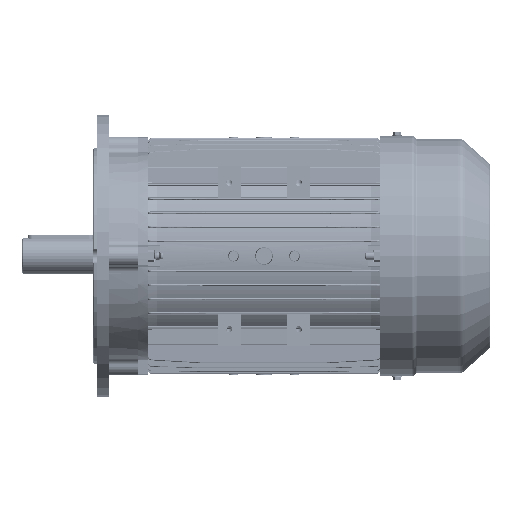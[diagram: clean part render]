
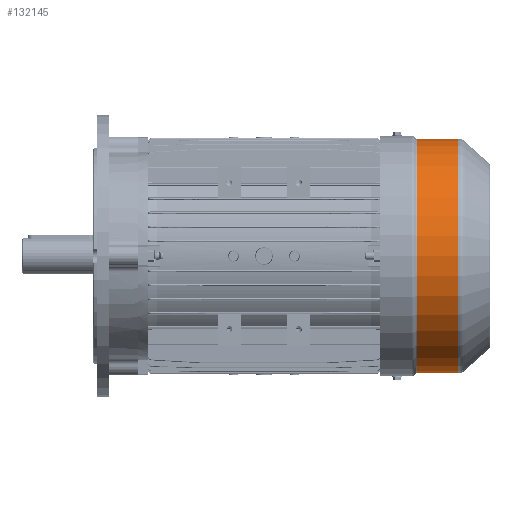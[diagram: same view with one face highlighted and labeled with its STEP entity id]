
A CAD part, front view. The second image highlights one B-rep face of the part: STEP entity #132145.
In plain terms, the highlighted cylindrical face has radius 125 mm (diameter 250 mm), a partial arc.
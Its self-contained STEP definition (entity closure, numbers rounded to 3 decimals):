
#3391 = VERTEX_POINT ( 'NONE', #76927 ) ;
#7706 = CIRCLE ( 'NONE', #74350, 125. ) ;
#13133 = CARTESIAN_POINT ( 'NONE',  ( -39.028, 0., 0. ) ) ;
#26895 = DIRECTION ( 'NONE',  ( 0., 0., 1. ) ) ;
#28086 = ORIENTED_EDGE ( 'NONE', *, *, #80348, .T. ) ;
#28287 = FACE_OUTER_BOUND ( 'NONE', #89871, .T. ) ;
#30544 = CARTESIAN_POINT ( 'NONE',  ( -39.028, 0., -125. ) ) ;
#39878 = DIRECTION ( 'NONE',  ( -1., 0., 0. ) ) ;
#42777 = LINE ( 'NONE', #118515, #90216 ) ;
#43224 = EDGE_CURVE ( 'NONE', #44314, #55408, #42777, .T. ) ;
#44314 = VERTEX_POINT ( 'NONE', #30544 ) ;
#44540 = CARTESIAN_POINT ( 'NONE',  ( -39.028, 0., 125. ) ) ;
#47358 = CARTESIAN_POINT ( 'NONE',  ( -83.139, 0., -125. ) ) ;
#52119 = CARTESIAN_POINT ( 'NONE',  ( -114., 0., 125. ) ) ;
#55408 = VERTEX_POINT ( 'NONE', #47358 ) ;
#66575 = AXIS2_PLACEMENT_3D ( 'NONE', #126537, #102149, #150474 ) ;
#68752 = DIRECTION ( 'NONE',  ( -1., 0., 0. ) ) ;
#74350 = AXIS2_PLACEMENT_3D ( 'NONE', #13133, #87304, #26895 ) ;
#76927 = CARTESIAN_POINT ( 'NONE',  ( -83.139, 0., 125. ) ) ;
#80336 = CARTESIAN_POINT ( 'NONE',  ( -114., 0., 0. ) ) ;
#80348 = EDGE_CURVE ( 'NONE', #44314, #119642, #7706, .T. ) ;
#82401 = AXIS2_PLACEMENT_3D ( 'NONE', #80336, #92561, #140246 ) ;
#82797 = VECTOR ( 'NONE', #39878, 1000. ) ;
#87304 = DIRECTION ( 'NONE',  ( -1., 0., 0. ) ) ;
#89871 = EDGE_LOOP ( 'NONE', ( #98614, #28086, #136664, #151118 ) ) ;
#90216 = VECTOR ( 'NONE', #68752, 1000. ) ;
#92561 = DIRECTION ( 'NONE',  ( -1., 0., 0. ) ) ;
#93557 = CIRCLE ( 'NONE', #66575, 125. ) ;
#94666 = CYLINDRICAL_SURFACE ( 'NONE', #82401, 125. ) ;
#98614 = ORIENTED_EDGE ( 'NONE', *, *, #43224, .F. ) ;
#102149 = DIRECTION ( 'NONE',  ( 1., 0., 0. ) ) ;
#114357 = EDGE_CURVE ( 'NONE', #119642, #3391, #120630, .T. ) ;
#118515 = CARTESIAN_POINT ( 'NONE',  ( -114., 0., -125. ) ) ;
#119642 = VERTEX_POINT ( 'NONE', #44540 ) ;
#120630 = LINE ( 'NONE', #52119, #82797 ) ;
#126537 = CARTESIAN_POINT ( 'NONE',  ( -83.139, 0., 0. ) ) ;
#132145 = ADVANCED_FACE ( 'NONE', ( #28287 ), #94666, .T. ) ;
#136664 = ORIENTED_EDGE ( 'NONE', *, *, #114357, .T. ) ;
#140246 = DIRECTION ( 'NONE',  ( 0., 0., 1. ) ) ;
#150474 = DIRECTION ( 'NONE',  ( 0., 0., -1. ) ) ;
#151118 = ORIENTED_EDGE ( 'NONE', *, *, #152264, .T. ) ;
#152264 = EDGE_CURVE ( 'NONE', #3391, #55408, #93557, .T. ) ;
